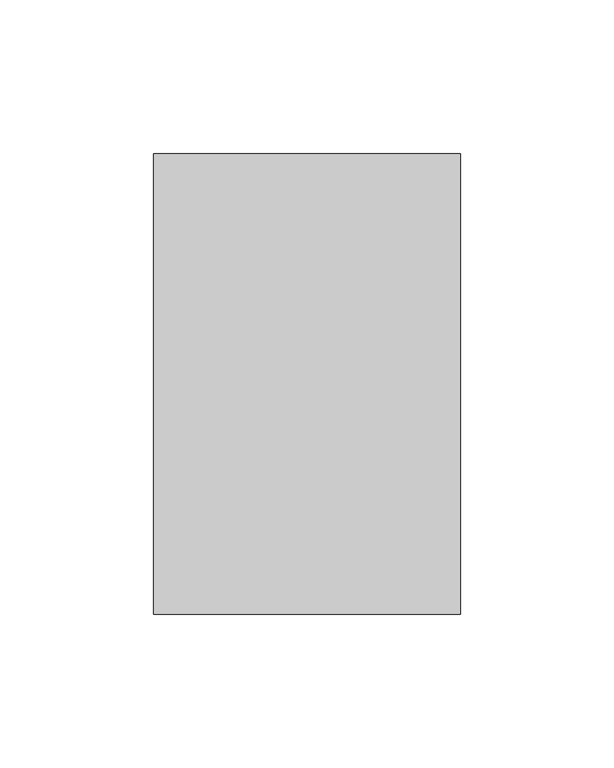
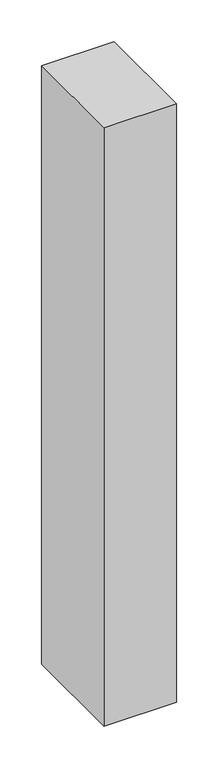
"""IFC4 building model written with IfcOpenShell, lengths in millimetres: member geometry, 矩形竖梃 : 教学楼 – 矩形竖梃 – 100x150mm."""

from ifc_helpers import new_model, si_unit, frame, origin, place, context, project, spatial, polyline, outline, extrude, source, transform, mapped, element, save


def member_c89433b5(model_context):
    return source(origin(), model_context, "Body", "SweptSolid", [
        extrude(outline(polyline([(0.0, 75.0), (0.0, -75.0), (-100.0, -75.0), (-100.0, 75.0), (0.0, 75.0)])), frame((0.0, 0.0, -875.0), z_axis=(0.0, 0.0, 1.0), x_axis=(1.0, 0.0, 0.0)), (0.0, 0.0, 1.0), 875.0),
    ])


if __name__ == "__main__":
    model = new_model("IFC4")
    model_context = context("Model", 3, world=origin())
    ifc_project = project(units=[si_unit("LENGTHUNIT", "METRE", prefix="MILLI")], contexts=[model_context])
    site = spatial("IfcSite", under=ifc_project)
    building = spatial("IfcBuilding", under=site)
    placement = place(None, origin())
    member_shape = member_c89433b5(model_context)
    element("IfcMember", 1, ObjectType="矩形竖梃 : 教学楼 – 矩形竖梃 – 100x150mm", at=placement, inside=building, context=model_context, shape_type="MappedRepresentation", body=[
        mapped(member_shape, transform((0.0, 0.0, 0.0), x_axis=(1.0, 0.0, 0.0), y_axis=(0.0, 1.0, 0.0), z_axis=(0.0, 0.0, 1.0))),
    ])
    save(model, "model.ifc")
